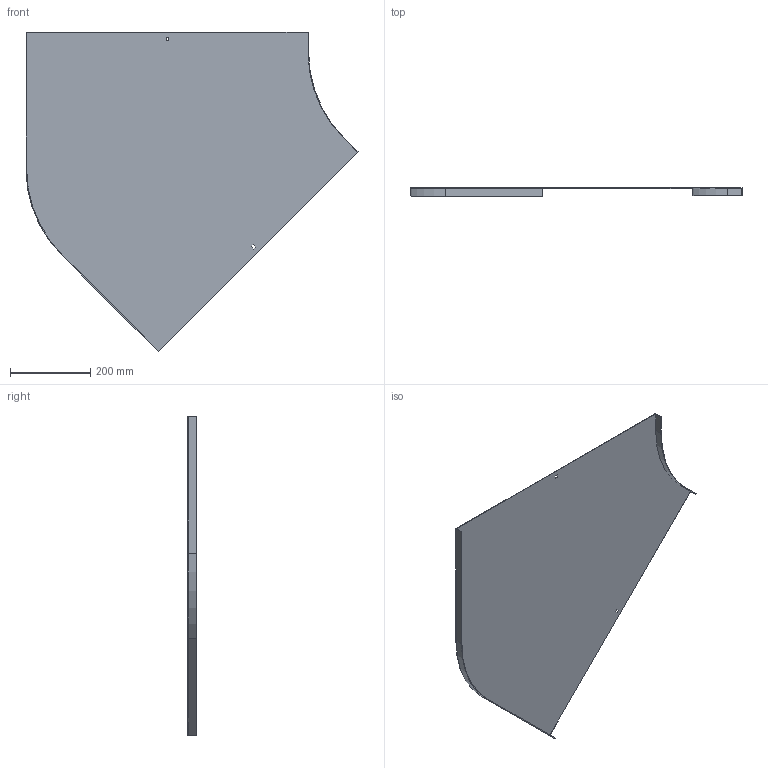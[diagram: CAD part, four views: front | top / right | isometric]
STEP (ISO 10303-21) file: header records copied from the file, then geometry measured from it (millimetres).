
FILE_DESCRIPTION (( 'STEP AP214' ), '1' );
FILE_NAME ('B2_11N3R700.step', '2025-02-21T10:51:18', ( '' ), ( '' ), 'SwSTEP 2.0', 'SolidWorks 2023', '' );
FILE_SCHEMA (( 'AUTOMOTIVE_DESIGN' ));
Length unit declared in the file: millimetre
Products named in the file (1): B2_11N3R700
Bounding box: 825.78 x 20 x 793.52 mm (x, y, z)
Volume: 707760.1 mm3; surface area: 947869.9 mm2
Topology: 1 solids, 1 shells, 26 faces, 72 edges, 48 vertices
Faces by surface type: plane 22, cylinder 4
Entity records: 855 total; most frequent: CARTESIAN_POINT 147, ORIENTED_EDGE 144, DIRECTION 134, EDGE_CURVE 72, VECTOR 64, LINE 64, VERTEX_POINT 48, AXIS2_PLACEMENT_3D 35
